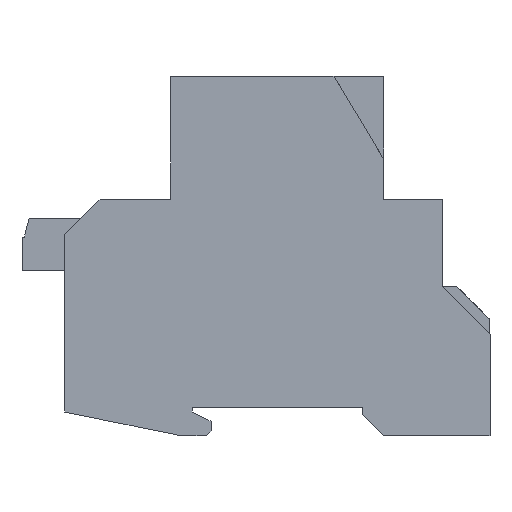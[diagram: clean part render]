
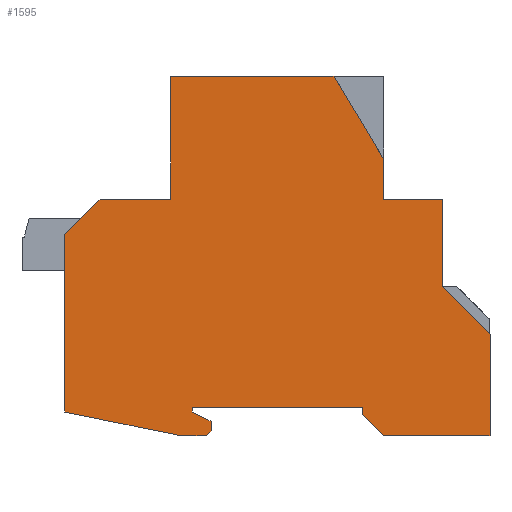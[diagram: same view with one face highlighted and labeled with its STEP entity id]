
A CAD part, left-side view. The second image highlights one B-rep face of the part: STEP entity #1595.
In plain terms, the highlighted planar face has unit normal (-1, 0, 0).
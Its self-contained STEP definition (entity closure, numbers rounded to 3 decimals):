
#933=CARTESIAN_POINT('',(-53.5,15.,-6.));
#934=VERTEX_POINT('',#933);
#941=CARTESIAN_POINT('',(-53.5,20.5,-6.));
#942=VERTEX_POINT('',#941);
#943=CARTESIAN_POINT('',(-53.5,20.5,-6.));
#944=DIRECTION('',(0.0,-1.0,0.0));
#945=VECTOR('',#944,5.5);
#946=LINE('',#943,#945);
#947=EDGE_CURVE('',#942,#934,#946,.T.);
#980=CARTESIAN_POINT('',(-53.5,14.,-5.0));
#981=VERTEX_POINT('',#980);
#988=CARTESIAN_POINT('',(-53.5,15.,-6.));
#989=DIRECTION('',(0.0,-0.707,0.707));
#990=VECTOR('',#989,1.414);
#991=LINE('',#988,#990);
#992=EDGE_CURVE('',#934,#981,#991,.T.);
#1004=CARTESIAN_POINT('',(-53.5,14.,-3.));
#1005=VERTEX_POINT('',#1004);
#1012=CARTESIAN_POINT('',(-53.5,14.,-5.0));
#1013=DIRECTION('',(0.0,0.0,1.0));
#1014=VECTOR('',#1013,2.);
#1015=LINE('',#1012,#1014);
#1016=EDGE_CURVE('',#981,#1005,#1015,.T.);
#1028=CARTESIAN_POINT('',(-53.5,18.,-1.));
#1029=VERTEX_POINT('',#1028);
#1036=CARTESIAN_POINT('',(-53.5,14.,-3.));
#1037=DIRECTION('',(0.0,0.894,0.447));
#1038=VECTOR('',#1037,4.472);
#1039=LINE('',#1036,#1038);
#1040=EDGE_CURVE('',#1005,#1029,#1039,.T.);
#1061=CARTESIAN_POINT('',(-53.5,-22.5,-6.));
#1062=VERTEX_POINT('',#1061);
#1069=CARTESIAN_POINT('',(-53.5,-18.0,-1.5));
#1070=VERTEX_POINT('',#1069);
#1071=CARTESIAN_POINT('',(-53.5,-22.5,-6.));
#1072=DIRECTION('',(0.0,0.707,0.707));
#1073=VECTOR('',#1072,6.364);
#1074=LINE('',#1071,#1073);
#1075=EDGE_CURVE('',#1062,#1070,#1074,.T.);
#1249=CARTESIAN_POINT('',(-53.5,-18.,0.0));
#1250=VERTEX_POINT('',#1249);
#1259=CARTESIAN_POINT('',(-53.5,-18.,0.0));
#1260=DIRECTION('',(0.0,0.0,-1.0));
#1261=VECTOR('',#1260,1.5);
#1262=LINE('',#1259,#1261);
#1263=EDGE_CURVE('',#1250,#1070,#1262,.T.);
#1273=CARTESIAN_POINT('',(-53.5,45.0,-1.));
#1274=VERTEX_POINT('',#1273);
#1275=CARTESIAN_POINT('',(-53.5,45.0,-1.));
#1276=DIRECTION('',(0.,-0.98,-0.2));
#1277=VECTOR('',#1276,25.005);
#1278=LINE('',#1275,#1277);
#1279=EDGE_CURVE('',#1274,#942,#1278,.T.);
#1321=CARTESIAN_POINT('',(-53.5,18.,0.0));
#1322=VERTEX_POINT('',#1321);
#1329=CARTESIAN_POINT('',(-53.5,18.,-1.));
#1330=DIRECTION('',(0.0,0.0,1.0));
#1331=VECTOR('',#1330,1.);
#1332=LINE('',#1329,#1331);
#1333=EDGE_CURVE('',#1029,#1322,#1332,.T.);
#1350=CARTESIAN_POINT('',(-53.5,18.,0.0));
#1351=DIRECTION('',(0.0,-1.0,0.0));
#1352=VECTOR('',#1351,36.0);
#1353=LINE('',#1350,#1352);
#1354=EDGE_CURVE('',#1322,#1250,#1353,.T.);
#1394=CARTESIAN_POINT('',(-53.5,45.0,36.5));
#1395=VERTEX_POINT('',#1394);
#1396=CARTESIAN_POINT('',(-53.5,45.0,-1.));
#1397=DIRECTION('',(0.0,0.0,1.0));
#1398=VECTOR('',#1397,37.5);
#1399=LINE('',#1396,#1398);
#1400=EDGE_CURVE('',#1274,#1395,#1399,.T.);
#1492=CARTESIAN_POINT('',(-53.5,-45.0,0.0));
#1493=DIRECTION('',(-1.0,0.0,0.0));
#1494=DIRECTION('',(0.0,0.0,1.0));
#1495=AXIS2_PLACEMENT_3D('',#1492,#1493,#1494);
#1496=PLANE('',#1495);
#1497=ORIENTED_EDGE('',*,*,#1075,.F.);
#1498=CARTESIAN_POINT('',(-53.5,-45.0,-6.));
#1499=VERTEX_POINT('',#1498);
#1500=CARTESIAN_POINT('',(-53.5,-22.5,-6.));
#1501=DIRECTION('',(0.0,-1.0,0.0));
#1502=VECTOR('',#1501,22.5);
#1503=LINE('',#1500,#1502);
#1504=EDGE_CURVE('',#1062,#1499,#1503,.T.);
#1505=ORIENTED_EDGE('',*,*,#1504,.T.);
#1506=CARTESIAN_POINT('',(-53.5,-45.0,15.5));
#1507=VERTEX_POINT('',#1506);
#1508=CARTESIAN_POINT('',(-53.5,-45.0,15.5));
#1509=DIRECTION('',(0.0,0.0,-1.0));
#1510=VECTOR('',#1509,21.5);
#1511=LINE('',#1508,#1510);
#1512=EDGE_CURVE('',#1507,#1499,#1511,.T.);
#1513=ORIENTED_EDGE('',*,*,#1512,.F.);
#1514=CARTESIAN_POINT('',(-53.5,-35.0,25.5));
#1515=VERTEX_POINT('',#1514);
#1516=CARTESIAN_POINT('',(-53.5,-35.0,25.5));
#1517=DIRECTION('',(0.0,-0.707,-0.707));
#1518=VECTOR('',#1517,14.142);
#1519=LINE('',#1516,#1518);
#1520=EDGE_CURVE('',#1515,#1507,#1519,.T.);
#1521=ORIENTED_EDGE('',*,*,#1520,.F.);
#1522=CARTESIAN_POINT('',(-53.5,-35.0,44.0));
#1523=VERTEX_POINT('',#1522);
#1524=CARTESIAN_POINT('',(-53.5,-35.0,25.5));
#1525=DIRECTION('',(0.0,0.0,1.0));
#1526=VECTOR('',#1525,18.5);
#1527=LINE('',#1524,#1526);
#1528=EDGE_CURVE('',#1515,#1523,#1527,.T.);
#1529=ORIENTED_EDGE('',*,*,#1528,.T.);
#1530=CARTESIAN_POINT('',(-53.5,-22.5,44.0));
#1531=VERTEX_POINT('',#1530);
#1532=CARTESIAN_POINT('',(-53.5,-35.0,44.0));
#1533=DIRECTION('',(0.0,1.0,0.0));
#1534=VECTOR('',#1533,12.5);
#1535=LINE('',#1532,#1534);
#1536=EDGE_CURVE('',#1523,#1531,#1535,.T.);
#1537=ORIENTED_EDGE('',*,*,#1536,.T.);
#1538=CARTESIAN_POINT('',(-53.5,-22.5,52.5));
#1539=VERTEX_POINT('',#1538);
#1540=CARTESIAN_POINT('',(-53.5,-22.5,44.0));
#1541=DIRECTION('',(0.0,0.0,1.0));
#1542=VECTOR('',#1541,8.5);
#1543=LINE('',#1540,#1542);
#1544=EDGE_CURVE('',#1531,#1539,#1543,.T.);
#1545=ORIENTED_EDGE('',*,*,#1544,.T.);
#1546=CARTESIAN_POINT('',(-53.5,-12.,70.0));
#1547=VERTEX_POINT('',#1546);
#1548=CARTESIAN_POINT('',(-53.5,-22.5,52.5));
#1549=DIRECTION('',(0.,0.514,0.857));
#1550=VECTOR('',#1549,20.408);
#1551=LINE('',#1548,#1550);
#1552=EDGE_CURVE('',#1539,#1547,#1551,.T.);
#1553=ORIENTED_EDGE('',*,*,#1552,.T.);
#1554=CARTESIAN_POINT('',(-53.5,22.5,70.0));
#1555=VERTEX_POINT('',#1554);
#1556=CARTESIAN_POINT('',(-53.5,-12.,70.0));
#1557=DIRECTION('',(0.0,1.0,0.0));
#1558=VECTOR('',#1557,34.5);
#1559=LINE('',#1556,#1558);
#1560=EDGE_CURVE('',#1547,#1555,#1559,.T.);
#1561=ORIENTED_EDGE('',*,*,#1560,.T.);
#1562=CARTESIAN_POINT('',(-53.5,22.5,44.0));
#1563=VERTEX_POINT('',#1562);
#1564=CARTESIAN_POINT('',(-53.5,22.5,70.0));
#1565=DIRECTION('',(0.0,0.0,-1.0));
#1566=VECTOR('',#1565,26.0);
#1567=LINE('',#1564,#1566);
#1568=EDGE_CURVE('',#1555,#1563,#1567,.T.);
#1569=ORIENTED_EDGE('',*,*,#1568,.T.);
#1570=CARTESIAN_POINT('',(-53.5,37.5,44.));
#1571=VERTEX_POINT('',#1570);
#1572=CARTESIAN_POINT('',(-53.5,22.5,44.0));
#1573=DIRECTION('',(0.0,1.0,0.0));
#1574=VECTOR('',#1573,15.);
#1575=LINE('',#1572,#1574);
#1576=EDGE_CURVE('',#1563,#1571,#1575,.T.);
#1577=ORIENTED_EDGE('',*,*,#1576,.T.);
#1578=CARTESIAN_POINT('',(-53.5,45.0,36.5));
#1579=DIRECTION('',(0.0,-0.707,0.707));
#1580=VECTOR('',#1579,10.607);
#1581=LINE('',#1578,#1580);
#1582=EDGE_CURVE('',#1395,#1571,#1581,.T.);
#1583=ORIENTED_EDGE('',*,*,#1582,.F.);
#1584=ORIENTED_EDGE('',*,*,#1400,.F.);
#1585=ORIENTED_EDGE('',*,*,#1279,.T.);
#1586=ORIENTED_EDGE('',*,*,#947,.T.);
#1587=ORIENTED_EDGE('',*,*,#992,.T.);
#1588=ORIENTED_EDGE('',*,*,#1016,.T.);
#1589=ORIENTED_EDGE('',*,*,#1040,.T.);
#1590=ORIENTED_EDGE('',*,*,#1333,.T.);
#1591=ORIENTED_EDGE('',*,*,#1354,.T.);
#1592=ORIENTED_EDGE('',*,*,#1263,.T.);
#1593=EDGE_LOOP('',(#1497,#1505,#1513,#1521,#1529,#1537,#1545,#1553,#1561,#1569,#1577,#1583,#1584,#1585,#1586,#1587,#1588,#1589,#1590,#1591,#1592));
#1594=FACE_OUTER_BOUND('',#1593,.T.);
#1595=ADVANCED_FACE('',(#1594),#1496,.T.);
